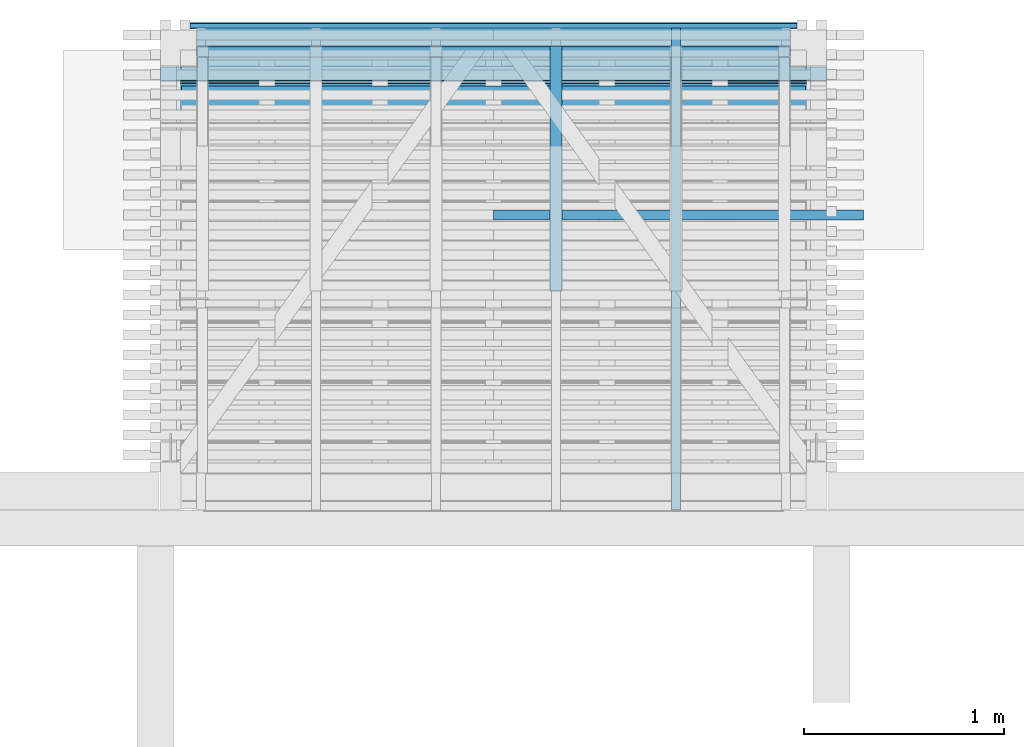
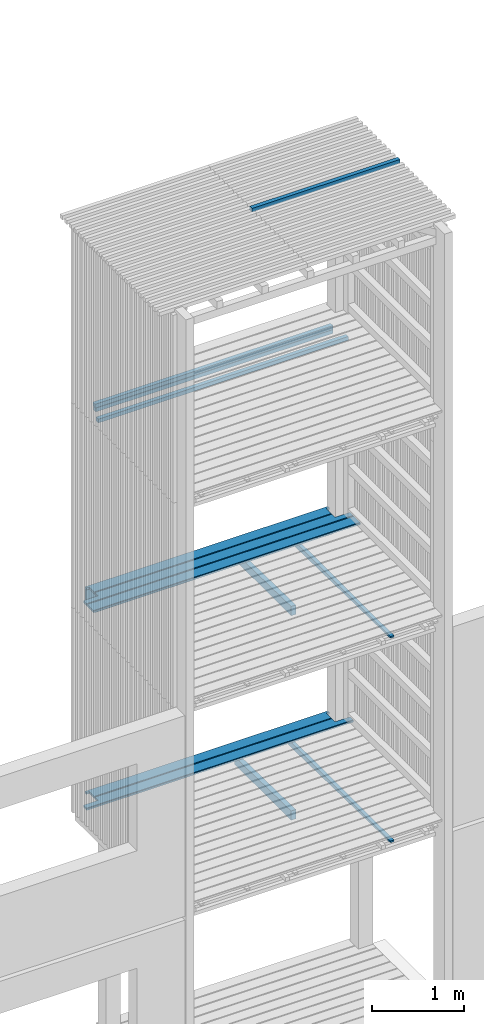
# One storey, part 50 of 182: 15 beams.
"""IFC2X3 building model written with IfcOpenShell, lengths in metres."""

from ifc_helpers import new_model, si_unit, frame, origin, place, context, project, spatial, faceted_brep, element, save


model = new_model("IFC2X3")

# Units and contexts
model_context = context("Model", 3, precision=1e-06, world=origin())
ifc_project = project(units=[si_unit("LENGTHUNIT", "METRE"), si_unit("PLANEANGLEUNIT", "RADIAN")], contexts=[model_context])

# Site, building, storey
site = spatial("IfcSite", under=ifc_project, CompositionType="ELEMENT")
building = spatial("IfcBuilding", under=site, CompositionType="ELEMENT")
storey = spatial("IfcBuildingStorey", under=building, Name="vs", CompositionType="ELEMENT", Elevation=-0.85)

# Beams
placement = place(None, origin())
beam_1_placement = place(placement, frame((16.506015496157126, 12.834577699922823, 2.733499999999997), z_axis=(0.0, 0.0, 1.0), x_axis=(-1.0, 0.0, 0.0)))
element("IfcBeam", 1, at=beam_1_placement, inside=storey, Name="Caillebotis", context=model_context, shape_type="Brep", body=[
    faceted_brep([(3.033636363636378, -0.072499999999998, -0.0135), (3.033636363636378, -0.072499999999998, 0.008500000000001), (2e-15, -0.072499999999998, 0.008500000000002), (2e-15, -0.072500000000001, -0.0135), (2.996818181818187, 0.072500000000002, 0.0085), (2.996818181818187, 0.067500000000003, 0.0135), (2.996818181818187, -0.040499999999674, 0.0135), (2.996818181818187, -0.040499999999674, -0.0135), (2.996818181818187, 0.072500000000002, -0.0135), (0.036818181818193, -0.040499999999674, -0.0135), (0.036818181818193, 0.072499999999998, -0.0135), (2.996818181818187, 0.072500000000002, -0.0135), (2.996818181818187, -0.040499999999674, -0.0135), (3.033636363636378, -0.040499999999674, -0.0135), (3.033636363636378, -0.072499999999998, -0.0135), (2e-15, -0.072500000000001, -0.0135), (2e-15, -0.040499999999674, -0.0135), (3.033636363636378, -0.072499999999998, 0.008500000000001), (3.033636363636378, -0.072499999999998, -0.0135), (3.033636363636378, -0.040499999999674, -0.0135), (3.033636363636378, -0.040499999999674, 0.0135), (3.033636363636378, -0.067500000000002, 0.0135), (3.033636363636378, -0.040499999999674, 0.0135), (3.033636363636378, -0.040499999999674, -0.0135), (2.996818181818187, -0.040499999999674, -0.0135), (2.996818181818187, -0.040499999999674, 0.0135), (2.996818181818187, 0.072500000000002, 0.0085), (2.996818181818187, 0.072500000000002, -0.0135), (0.036818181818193, 0.072499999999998, -0.0135), (0.036818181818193, 0.072499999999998, 0.0085), (2.996818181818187, 0.067500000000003, 0.0135), (2.996818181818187, 0.072500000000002, 0.0085), (0.036818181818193, 0.072499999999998, 0.0085), (0.036818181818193, 0.067500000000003, 0.0135), (0.036818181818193, 0.067500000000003, 0.0135), (0.036818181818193, 0.072499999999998, 0.0085), (0.036818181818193, 0.072499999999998, -0.0135), (0.036818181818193, -0.040499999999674, -0.0135), (0.036818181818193, -0.040499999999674, 0.0135), (0.036818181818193, -0.040499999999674, 0.0135), (0.036818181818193, -0.040499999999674, -0.0135), (2e-15, -0.040499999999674, -0.0135), (2e-15, -0.040499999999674, 0.0135), (3.033636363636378, -0.067500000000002, 0.0135), (3.033636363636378, -0.040499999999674, 0.0135), (2.996818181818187, -0.040499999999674, 0.0135), (2.996818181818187, 0.067500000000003, 0.0135), (0.036818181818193, 0.067500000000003, 0.0135), (0.036818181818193, -0.040499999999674, 0.0135), (2e-15, -0.040499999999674, 0.0135), (2e-15, -0.067500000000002, 0.0135), (2e-15, -0.072499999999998, 0.008500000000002), (3.033636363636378, -0.072499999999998, 0.008500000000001), (3.033636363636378, -0.067500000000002, 0.0135), (2e-15, -0.067500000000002, 0.0135), (2e-15, -0.072500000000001, -0.0135), (2e-15, -0.072499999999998, 0.008500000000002), (2e-15, -0.067500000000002, 0.0135), (2e-15, -0.040499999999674, 0.0135), (2e-15, -0.040499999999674, -0.0135)], [[[0, 1, 2, 3]], [[4, 5, 6, 7, 8]], [[9, 10, 11, 12, 13, 14, 15, 16]], [[17, 18, 19, 20, 21]], [[22, 23, 24, 25]], [[26, 27, 28, 29]], [[30, 31, 32, 33]], [[34, 35, 36, 37, 38]], [[39, 40, 41, 42]], [[43, 44, 45, 46, 47, 48, 49, 50]], [[51, 52, 53, 54]], [[55, 56, 57, 58, 59]]]),
])
beam_2_placement = place(placement, frame((16.469197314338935, 12.760077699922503, 7.86739999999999), z_axis=(0.0, 0.0, 1.0), x_axis=(-1.0, 0.0, 0.0)))
element("IfcBeam", 2, at=beam_2_placement, inside=storey, Name="Bardage", context=model_context, shape_type="Brep", body=[
    faceted_brep([(2.96000000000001, -0.024999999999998, 0.025000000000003), (2.96000000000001, -0.024999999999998, -0.024999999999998), (2.96000000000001, 0.025000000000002, -0.024999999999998), (2.96000000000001, 0.025000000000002, 0.025000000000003), (2e-15, 0.024999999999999, 0.025000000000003), (2e-15, 0.024999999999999, -0.024999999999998), (2e-15, -0.024999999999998, -0.024999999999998), (2e-15, -0.024999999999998, 0.025000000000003), (2e-15, -0.024999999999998, -0.024999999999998), (2e-15, 0.024999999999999, -0.024999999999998), (2.96000000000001, 0.025000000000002, -0.024999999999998), (2.96000000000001, -0.024999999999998, -0.024999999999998), (2e-15, 0.024999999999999, -0.024999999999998), (2e-15, 0.024999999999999, 0.025000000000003), (2.96000000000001, 0.025000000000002, 0.025000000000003), (2.96000000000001, 0.025000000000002, -0.024999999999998), (2e-15, 0.024999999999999, 0.025000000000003), (2e-15, -0.024999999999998, 0.025000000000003), (2.96000000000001, -0.024999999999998, 0.025000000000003), (2.96000000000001, 0.025000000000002, 0.025000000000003), (2e-15, -0.024999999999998, 0.025000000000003), (2e-15, -0.024999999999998, -0.024999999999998), (2.96000000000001, -0.024999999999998, -0.024999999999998), (2.96000000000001, -0.024999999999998, 0.025000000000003)], [[[0, 1, 2, 3]], [[4, 5, 6, 7]], [[8, 9, 10, 11]], [[12, 13, 14, 15]], [[16, 17, 18, 19]], [[20, 21, 22, 23]]]),
])
beam_3_placement = place(placement, frame((16.654197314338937, 12.684577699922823, 5.433499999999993), z_axis=(0.0, 0.0, 1.0), x_axis=(-1.0, 0.0, 0.0)))
element("IfcBeam", 3, at=beam_3_placement, inside=storey, Name="Caillebotis", context=model_context, shape_type="Brep", body=[
    faceted_brep([(3.144999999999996, -0.000499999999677, 0.0135), (3.144999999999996, -0.000499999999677, -0.0135), (3.329999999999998, -0.000499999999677, -0.0135), (3.329999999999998, -0.000499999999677, 0.0135), (3.329999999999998, 0.072500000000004, -0.0135), (3.329999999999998, 0.0725, 0.008500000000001), (3.329999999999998, 0.067500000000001, 0.0135), (3.329999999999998, -0.000499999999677, 0.0135), (3.329999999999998, -0.000499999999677, -0.0135), (3.144999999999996, -0.072499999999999, 0.008500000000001), (3.144999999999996, -0.072499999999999, -0.013500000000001), (3.144999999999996, -0.000499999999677, -0.0135), (3.144999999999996, -0.000499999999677, 0.0135), (3.144999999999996, -0.0675, 0.0135), (3.144999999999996, -0.072499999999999, -0.013500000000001), (3.144999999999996, -0.072499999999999, 0.008500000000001), (0.185000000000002, -0.072499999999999, 0.008500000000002), (0.185000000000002, -0.072499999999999, -0.0135), (3.144999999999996, -0.072499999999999, 0.008500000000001), (3.144999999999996, -0.0675, 0.0135), (0.185000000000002, -0.067500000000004, 0.0135), (0.185000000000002, -0.072499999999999, 0.008500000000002), (0.185000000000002, -0.072499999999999, -0.0135), (0.185000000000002, -0.072499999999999, 0.008500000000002), (0.185000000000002, -0.067500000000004, 0.0135), (0.185000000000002, -0.000499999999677, 0.0135), (0.185000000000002, -0.000499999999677, -0.0135), (1.4e-14, -0.000499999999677, 0.0135), (0.0, 0.067500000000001, 0.0135), (0.0, 0.0725, 0.008500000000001), (0.0, 0.0725, -0.0135), (0.0, -0.000499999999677, -0.0135), (3.329999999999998, 0.0725, 0.008500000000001), (3.329999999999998, 0.072500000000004, -0.0135), (0.0, 0.0725, -0.0135), (0.0, 0.0725, 0.008500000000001), (3.329999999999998, 0.067500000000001, 0.0135), (3.329999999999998, 0.0725, 0.008500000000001), (0.0, 0.0725, 0.008500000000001), (0.0, 0.067500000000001, 0.0135), (3.144999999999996, -0.0675, 0.0135), (3.144999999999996, -0.000499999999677, 0.0135), (3.329999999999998, -0.000499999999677, 0.0135), (3.329999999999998, 0.067500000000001, 0.0135), (0.0, 0.067500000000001, 0.0135), (1.4e-14, -0.000499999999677, 0.0135), (0.185000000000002, -0.000499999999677, 0.0135), (0.185000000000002, -0.067500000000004, 0.0135), (0.185000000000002, -0.000499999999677, -0.0135), (0.185000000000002, -0.000499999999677, 0.0135), (1.4e-14, -0.000499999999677, 0.0135), (0.0, -0.000499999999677, -0.0135), (0.0, -0.000499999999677, -0.0135), (0.0, 0.0725, -0.0135), (3.329999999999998, 0.072500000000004, -0.0135), (3.329999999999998, -0.000499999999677, -0.0135), (3.144999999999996, -0.000499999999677, -0.0135), (3.144999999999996, -0.072499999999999, -0.013500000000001), (0.185000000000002, -0.072499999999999, -0.0135), (0.185000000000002, -0.000499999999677, -0.0135)], [[[0, 1, 2, 3]], [[4, 5, 6, 7, 8]], [[9, 10, 11, 12, 13]], [[14, 15, 16, 17]], [[18, 19, 20, 21]], [[22, 23, 24, 25, 26]], [[27, 28, 29, 30, 31]], [[32, 33, 34, 35]], [[36, 37, 38, 39]], [[40, 41, 42, 43, 44, 45, 46, 47]], [[48, 49, 50, 51]], [[52, 53, 54, 55, 56, 57, 58, 59]]]),
])
beam_4_placement = place(placement, frame((16.654197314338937, 12.534577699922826, 5.433499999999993), z_axis=(0.0, 0.0, 1.0), x_axis=(-1.0, -1e-15, 0.0)))
element("IfcBeam", 4, at=beam_4_placement, inside=storey, Name="Caillebotis", context=model_context, shape_type="Brep", body=[
    faceted_brep([(3.329999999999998, -0.072500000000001, -0.0135), (3.329999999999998, 0.072500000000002, -0.0135), (3.329999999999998, 0.072500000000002, 0.008500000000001), (3.329999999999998, 0.067499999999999, 0.0135), (3.329999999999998, -0.067499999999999, 0.0135), (3.329999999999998, -0.072500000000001, 0.008500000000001), (0.0, -0.072499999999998, 0.008500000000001), (0.0, -0.067499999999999, 0.0135), (0.0, 0.067500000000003, 0.0135), (0.0, 0.072500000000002, 0.008500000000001), (0.0, 0.072500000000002, -0.0135), (0.0, -0.072499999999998, -0.0135), (3.329999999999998, 0.072500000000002, 0.008500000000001), (3.329999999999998, 0.072500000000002, -0.0135), (0.0, 0.072500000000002, -0.0135), (0.0, 0.072500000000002, 0.008500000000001), (3.329999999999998, 0.067499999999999, 0.0135), (3.329999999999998, 0.072500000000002, 0.008500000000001), (0.0, 0.072500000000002, 0.008500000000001), (0.0, 0.067500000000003, 0.0135), (3.329999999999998, -0.067499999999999, 0.0135), (3.329999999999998, 0.067499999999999, 0.0135), (0.0, 0.067500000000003, 0.0135), (0.0, -0.067499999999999, 0.0135), (3.329999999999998, -0.072500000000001, 0.008500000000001), (3.329999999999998, -0.067499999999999, 0.0135), (0.0, -0.067499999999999, 0.0135), (0.0, -0.072499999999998, 0.008500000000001), (3.329999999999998, -0.072500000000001, -0.0135), (3.329999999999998, -0.072500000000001, 0.008500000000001), (0.0, -0.072499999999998, 0.008500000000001), (0.0, -0.072499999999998, -0.0135), (0.0, 0.072500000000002, -0.0135), (3.329999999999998, 0.072500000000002, -0.0135), (3.329999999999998, -0.072500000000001, -0.0135), (0.0, -0.072499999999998, -0.0135)], [[[0, 1, 2, 3, 4, 5]], [[6, 7, 8, 9, 10, 11]], [[12, 13, 14, 15]], [[16, 17, 18, 19]], [[20, 21, 22, 23]], [[24, 25, 26, 27]], [[28, 29, 30, 31]], [[32, 33, 34, 35]]]),
])
beam_5_placement = place(placement, frame((13.472379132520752, 12.89357769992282, 5.342499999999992), z_axis=(0.0, 1.0, 0.0), x_axis=(1.0, 0.0, 0.0)))
element("IfcBeam", 5, at=beam_5_placement, inside=storey, Name="Caillebotis", context=model_context, shape_type="Brep", body=[
    faceted_brep([(-3e-15, -0.072500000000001, -0.013500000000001), (-3e-15, 0.072499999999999, -0.013500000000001), (3.033636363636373, 0.072499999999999, -0.013499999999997), (3.033636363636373, -0.072500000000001, -0.013499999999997), (-3e-15, -0.072500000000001, 0.008500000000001), (-3e-15, -0.072500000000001, -0.013500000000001), (3.033636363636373, -0.072500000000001, -0.013499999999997), (3.033636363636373, -0.072500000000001, 0.008500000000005), (-3e-15, -0.067500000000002, 0.0135), (-3e-15, -0.072500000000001, 0.008500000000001), (3.033636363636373, -0.072500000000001, 0.008500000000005), (3.033636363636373, -0.067500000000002, 0.013500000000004), (-3e-15, -0.072500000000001, -0.013500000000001), (-3e-15, -0.072500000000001, 0.008500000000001), (-3e-15, -0.067500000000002, 0.0135), (-3e-15, 0.0675, 0.0135), (-3e-15, 0.072499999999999, 0.008500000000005), (-3e-15, 0.072499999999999, -0.013500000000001), (-3e-15, 0.0675, 0.0135), (-3e-15, -0.067500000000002, 0.0135), (3.033636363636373, -0.067500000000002, 0.013500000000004), (3.033636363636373, 0.0675, 0.013500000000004), (-3e-15, 0.072499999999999, 0.008500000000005), (-3e-15, 0.0675, 0.0135), (3.033636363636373, 0.0675, 0.013500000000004), (3.033636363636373, 0.072499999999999, 0.008500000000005), (3.033636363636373, 0.072499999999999, -0.013499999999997), (-3e-15, 0.072499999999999, -0.013500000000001), (-3e-15, 0.072499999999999, 0.008500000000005), (3.033636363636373, 0.072499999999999, 0.008500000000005), (3.033636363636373, -0.072500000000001, 0.008500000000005), (3.033636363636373, -0.072500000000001, -0.013499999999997), (3.033636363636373, 0.072499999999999, -0.013499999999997), (3.033636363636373, 0.072499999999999, 0.008500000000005), (3.033636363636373, 0.0675, 0.013500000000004), (3.033636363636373, -0.067500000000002, 0.013500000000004)], [[[0, 1, 2, 3]], [[4, 5, 6, 7]], [[8, 9, 10, 11]], [[12, 13, 14, 15, 16, 17]], [[18, 19, 20, 21]], [[22, 23, 24, 25]], [[26, 27, 28, 29]], [[30, 31, 32, 33, 34, 35]]]),
])
beam_6_placement = place(placement, frame((13.504197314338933, 12.765077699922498, 5.217399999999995), z_axis=(0.0, 0.0, 1.0), x_axis=(1.0, 1e-15, 0.0)))
element("IfcBeam", 6, at=beam_6_placement, inside=storey, Name="Ligneul", context=model_context, shape_type="Brep", body=[
    faceted_brep([(2e-15, -0.024999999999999, -0.024999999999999), (2.970000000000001, -0.025000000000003, -0.024999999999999), (2.970000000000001, -0.025000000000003, 0.025), (2e-15, -0.024999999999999, 0.025), (2e-15, -0.024999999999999, 0.025), (2.970000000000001, -0.025000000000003, 0.025), (2.970000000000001, 0.024999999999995, 0.025), (2e-15, 0.025000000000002, 0.025), (2e-15, 0.025000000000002, -0.024999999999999), (2e-15, -0.024999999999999, -0.024999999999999), (2e-15, -0.024999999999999, 0.025), (2e-15, 0.025000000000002, 0.025), (2e-15, 0.025000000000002, -0.024999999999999), (2e-15, 0.025000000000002, 0.025), (2.970000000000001, 0.024999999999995, 0.025), (2.970000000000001, 0.025000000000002, -0.024999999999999), (2e-15, -0.024999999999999, -0.024999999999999), (2e-15, 0.025000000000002, -0.024999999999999), (2.970000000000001, 0.025000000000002, -0.024999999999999), (2.970000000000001, -0.025000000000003, -0.024999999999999), (2.970000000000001, 0.025000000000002, -0.024999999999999), (2.970000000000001, 0.024999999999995, 0.025), (2.970000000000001, -0.025000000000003, 0.025), (2.970000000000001, -0.025000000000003, -0.024999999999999)], [[[0, 1, 2, 3]], [[4, 5, 6, 7]], [[8, 9, 10, 11]], [[12, 13, 14, 15]], [[16, 17, 18, 19]], [[20, 21, 22, 23]]]),
])
beam_7_placement = place(placement, frame((16.549197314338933, 12.565911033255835, 7.86739999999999), z_axis=(0.0, 0.0, 1.0), x_axis=(-1.0, 0.0, 0.0)))
element("IfcBeam", 7, at=beam_7_placement, inside=storey, Name="Bardage", context=model_context, shape_type="Brep", body=[
    faceted_brep([(3.120000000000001, 0.025000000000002, -0.024999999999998), (3.120000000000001, 0.025000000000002, 0.025000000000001), (3.120000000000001, -0.024999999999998, 0.025000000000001), (3.120000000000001, -0.024999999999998, -0.024999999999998), (-3e-15, -0.024999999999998, -0.024999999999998), (-3e-15, -0.024999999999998, 0.025000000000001), (-3e-15, 0.025000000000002, 0.025000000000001), (-3e-15, 0.025000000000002, -0.024999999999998), (-3e-15, 0.025000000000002, -0.024999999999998), (-3e-15, 0.025000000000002, 0.025000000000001), (3.120000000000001, 0.025000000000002, 0.025000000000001), (3.120000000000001, 0.025000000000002, -0.024999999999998), (-3e-15, 0.025000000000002, 0.025000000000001), (-3e-15, -0.024999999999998, 0.025000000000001), (3.120000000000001, -0.024999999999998, 0.025000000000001), (3.120000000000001, 0.025000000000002, 0.025000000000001), (-3e-15, -0.024999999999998, 0.025000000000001), (-3e-15, -0.024999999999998, -0.024999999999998), (3.120000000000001, -0.024999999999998, -0.024999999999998), (3.120000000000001, -0.024999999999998, 0.025000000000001), (-3e-15, -0.024999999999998, -0.024999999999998), (-3e-15, 0.025000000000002, -0.024999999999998), (3.120000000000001, 0.025000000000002, -0.024999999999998), (3.120000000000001, -0.024999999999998, -0.024999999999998)], [[[0, 1, 2, 3]], [[4, 5, 6, 7]], [[8, 9, 10, 11]], [[12, 13, 14, 15]], [[16, 17, 18, 19]], [[20, 21, 22, 23]]]),
])
beam_8_placement = place(placement, frame((16.506015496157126, 12.834577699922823, 5.433499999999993), z_axis=(0.0, 0.0, 1.0), x_axis=(-1.0, 0.0, 0.0)))
element("IfcBeam", 8, at=beam_8_placement, inside=storey, Name="Caillebotis", context=model_context, shape_type="Brep", body=[
    faceted_brep([(3.033636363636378, -0.072499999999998, -0.0135), (3.033636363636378, -0.072499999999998, 0.008500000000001), (2e-15, -0.072499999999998, 0.008500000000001), (2e-15, -0.072500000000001, -0.0135), (2.996818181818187, 0.072500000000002, 0.0085), (2.996818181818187, 0.067500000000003, 0.0135), (2.996818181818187, -0.040499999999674, 0.0135), (2.996818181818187, -0.040499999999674, -0.0135), (2.996818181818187, 0.072500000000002, -0.013500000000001), (0.036818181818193, -0.040499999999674, -0.0135), (0.036818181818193, 0.072499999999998, -0.0135), (2.996818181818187, 0.072500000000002, -0.013500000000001), (2.996818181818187, -0.040499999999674, -0.0135), (3.033636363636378, -0.040499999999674, -0.013500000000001), (3.033636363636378, -0.072499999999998, -0.0135), (2e-15, -0.072500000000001, -0.0135), (2e-15, -0.040499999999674, -0.0135), (3.033636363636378, -0.072499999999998, 0.008500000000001), (3.033636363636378, -0.072499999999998, -0.0135), (3.033636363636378, -0.040499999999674, -0.013500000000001), (3.033636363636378, -0.040499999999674, 0.0135), (3.033636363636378, -0.067500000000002, 0.0135), (3.033636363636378, -0.040499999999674, 0.0135), (3.033636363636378, -0.040499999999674, -0.013500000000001), (2.996818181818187, -0.040499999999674, -0.0135), (2.996818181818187, -0.040499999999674, 0.0135), (2.996818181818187, 0.072500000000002, 0.0085), (2.996818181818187, 0.072500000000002, -0.013500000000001), (0.036818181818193, 0.072499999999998, -0.0135), (0.036818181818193, 0.072499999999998, 0.008500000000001), (2.996818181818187, 0.067500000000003, 0.0135), (2.996818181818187, 0.072500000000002, 0.0085), (0.036818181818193, 0.072499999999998, 0.008500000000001), (0.036818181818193, 0.067500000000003, 0.0135), (0.036818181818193, 0.067500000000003, 0.0135), (0.036818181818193, 0.072499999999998, 0.008500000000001), (0.036818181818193, 0.072499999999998, -0.0135), (0.036818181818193, -0.040499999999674, -0.0135), (0.036818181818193, -0.040499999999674, 0.0135), (0.036818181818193, -0.040499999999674, 0.0135), (0.036818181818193, -0.040499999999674, -0.0135), (2e-15, -0.040499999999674, -0.0135), (2e-15, -0.040499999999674, 0.0135), (3.033636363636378, -0.067500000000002, 0.0135), (3.033636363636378, -0.040499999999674, 0.0135), (2.996818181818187, -0.040499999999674, 0.0135), (2.996818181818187, 0.067500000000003, 0.0135), (0.036818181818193, 0.067500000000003, 0.0135), (0.036818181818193, -0.040499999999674, 0.0135), (2e-15, -0.040499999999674, 0.0135), (2e-15, -0.067500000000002, 0.0135), (2e-15, -0.072499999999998, 0.008500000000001), (3.033636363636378, -0.072499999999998, 0.008500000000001), (3.033636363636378, -0.067500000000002, 0.0135), (2e-15, -0.067500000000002, 0.0135), (2e-15, -0.072500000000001, -0.0135), (2e-15, -0.072499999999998, 0.008500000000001), (2e-15, -0.067500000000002, 0.0135), (2e-15, -0.040499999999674, 0.0135), (2e-15, -0.040499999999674, -0.0135)], [[[0, 1, 2, 3]], [[4, 5, 6, 7, 8]], [[9, 10, 11, 12, 13, 14, 15, 16]], [[17, 18, 19, 20, 21]], [[22, 23, 24, 25]], [[26, 27, 28, 29]], [[30, 31, 32, 33]], [[34, 35, 36, 37, 38]], [[39, 40, 41, 42]], [[43, 44, 45, 46, 47, 48, 49, 50]], [[51, 52, 53, 54]], [[55, 56, 57, 58, 59]]]),
])
beam_9_placement = place(placement, frame((16.654197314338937, 12.684577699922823, 2.733499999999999), z_axis=(0.0, 0.0, 1.0), x_axis=(-1.0, 0.0, 0.0)))
element("IfcBeam", 9, at=beam_9_placement, inside=storey, Name="Caillebotis", context=model_context, shape_type="Brep", body=[
    faceted_brep([(3.144999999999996, -0.000499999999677, 0.0135), (3.144999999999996, -0.000499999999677, -0.0135), (3.329999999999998, -0.000499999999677, -0.0135), (3.329999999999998, -0.000499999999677, 0.0135), (3.329999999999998, 0.072500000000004, -0.0135), (3.329999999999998, 0.0725, 0.0085), (3.329999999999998, 0.067500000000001, 0.0135), (3.329999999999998, -0.000499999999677, 0.0135), (3.329999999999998, -0.000499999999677, -0.0135), (3.144999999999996, -0.072499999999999, 0.008500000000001), (3.144999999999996, -0.072499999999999, -0.013500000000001), (3.144999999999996, -0.000499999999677, -0.0135), (3.144999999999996, -0.000499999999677, 0.0135), (3.144999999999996, -0.0675, 0.0135), (3.144999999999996, -0.072499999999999, -0.013500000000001), (3.144999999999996, -0.072499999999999, 0.008500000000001), (0.185000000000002, -0.072499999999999, 0.008500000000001), (0.185000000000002, -0.072499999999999, -0.0135), (3.144999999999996, -0.072499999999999, 0.008500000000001), (3.144999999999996, -0.0675, 0.0135), (0.185000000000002, -0.067500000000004, 0.0135), (0.185000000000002, -0.072499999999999, 0.008500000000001), (0.185000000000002, -0.072499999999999, -0.0135), (0.185000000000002, -0.072499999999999, 0.008500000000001), (0.185000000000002, -0.067500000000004, 0.0135), (0.185000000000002, -0.000499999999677, 0.0135), (0.185000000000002, -0.000499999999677, -0.0135), (1.4e-14, -0.000499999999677, 0.0135), (0.0, 0.067500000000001, 0.0135), (0.0, 0.0725, 0.008500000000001), (0.0, 0.0725, -0.0135), (0.0, -0.000499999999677, -0.0135), (3.329999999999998, 0.0725, 0.0085), (3.329999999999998, 0.072500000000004, -0.0135), (0.0, 0.0725, -0.0135), (0.0, 0.0725, 0.008500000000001), (3.329999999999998, 0.067500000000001, 0.0135), (3.329999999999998, 0.0725, 0.0085), (0.0, 0.0725, 0.008500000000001), (0.0, 0.067500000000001, 0.0135), (3.144999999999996, -0.0675, 0.0135), (3.144999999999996, -0.000499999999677, 0.0135), (3.329999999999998, -0.000499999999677, 0.0135), (3.329999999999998, 0.067500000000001, 0.0135), (0.0, 0.067500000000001, 0.0135), (1.4e-14, -0.000499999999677, 0.0135), (0.185000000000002, -0.000499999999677, 0.0135), (0.185000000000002, -0.067500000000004, 0.0135), (0.185000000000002, -0.000499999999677, -0.0135), (0.185000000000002, -0.000499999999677, 0.0135), (1.4e-14, -0.000499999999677, 0.0135), (0.0, -0.000499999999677, -0.0135), (0.0, -0.000499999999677, -0.0135), (0.0, 0.0725, -0.0135), (3.329999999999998, 0.072500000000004, -0.0135), (3.329999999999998, -0.000499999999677, -0.0135), (3.144999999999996, -0.000499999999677, -0.0135), (3.144999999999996, -0.072499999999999, -0.013500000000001), (0.185000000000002, -0.072499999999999, -0.0135), (0.185000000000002, -0.000499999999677, -0.0135)], [[[0, 1, 2, 3]], [[4, 5, 6, 7, 8]], [[9, 10, 11, 12, 13]], [[14, 15, 16, 17]], [[18, 19, 20, 21]], [[22, 23, 24, 25, 26]], [[27, 28, 29, 30, 31]], [[32, 33, 34, 35]], [[36, 37, 38, 39]], [[40, 41, 42, 43, 44, 45, 46, 47]], [[48, 49, 50, 51]], [[52, 53, 54, 55, 56, 57, 58, 59]]]),
])
beam_10_placement = place(placement, frame((13.504197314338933, 12.765077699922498, 7.917399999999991), z_axis=(0.0, 0.0, 1.0), x_axis=(1.0, 1e-15, 0.0)))
element("IfcBeam", 10, at=beam_10_placement, inside=storey, Name="Ligneul", context=model_context, shape_type="Brep", body=[
    faceted_brep([(2e-15, 0.025000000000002, -0.025000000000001), (2.970000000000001, 0.025000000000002, -0.025000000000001), (2.970000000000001, -0.025000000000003, -0.025000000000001), (2e-15, -0.024999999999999, -0.025000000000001), (2e-15, -0.024999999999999, 0.024999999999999), (2e-15, 0.025000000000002, 0.024999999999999), (2e-15, 0.025000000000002, -0.025000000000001), (2e-15, -0.024999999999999, -0.025000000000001), (2e-15, -0.024999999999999, 0.024999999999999), (2e-15, -0.024999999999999, -0.025000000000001), (2.970000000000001, -0.025000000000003, -0.025000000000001), (2.970000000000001, -0.025000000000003, 0.024999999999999), (2.970000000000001, -0.025000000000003, 0.024999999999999), (2.970000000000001, -0.025000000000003, -0.025000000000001), (2.970000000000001, 0.025000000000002, -0.025000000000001), (2.970000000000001, 0.025000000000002, 0.024999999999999), (2e-15, 0.025000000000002, 0.024999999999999), (2e-15, -0.024999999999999, 0.024999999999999), (2.970000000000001, -0.025000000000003, 0.024999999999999), (2.970000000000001, 0.025000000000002, 0.024999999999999), (2.970000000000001, 0.025000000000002, -0.025000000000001), (2e-15, 0.025000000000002, -0.025000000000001), (2e-15, 0.025000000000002, 0.024999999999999), (2.970000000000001, 0.025000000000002, 0.024999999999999)], [[[0, 1, 2, 3]], [[4, 5, 6, 7]], [[8, 9, 10, 11]], [[12, 13, 14, 15]], [[16, 17, 18, 19]], [[20, 21, 22, 23]]]),
])
beam_11_placement = place(placement, frame((16.839197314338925, 11.945077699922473, 10.47999999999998), z_axis=(0.0, 0.0, 1.0), x_axis=(-1.0, 0.0, 0.0)))
element("IfcBeam", 11, at=beam_11_placement, inside=storey, Name="Bardage", context=model_context, shape_type="Brep", body=[
    faceted_brep([(-3e-15, 0.024999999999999, 0.025000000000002), (-3e-15, -0.025000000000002, 0.025000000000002), (1.849999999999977, -0.025000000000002, 0.025000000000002), (1.849999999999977, 0.024999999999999, 0.025000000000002), (1.849999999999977, -0.025000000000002, 0.025000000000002), (-3e-15, -0.025000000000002, 0.025000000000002), (-3e-15, -0.025000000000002, -0.024999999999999), (1.849999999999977, -0.025000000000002, -0.024999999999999), (-3e-15, -0.025000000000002, 0.025000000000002), (-3e-15, 0.024999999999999, 0.025000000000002), (-3e-15, 0.024999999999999, -0.024999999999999), (-3e-15, -0.025000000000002, -0.024999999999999), (-3e-15, 0.024999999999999, -0.024999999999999), (-3e-15, 0.024999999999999, 0.025000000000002), (1.849999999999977, 0.024999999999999, 0.025000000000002), (1.849999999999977, 0.024999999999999, -0.024999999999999), (1.849999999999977, -0.025000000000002, -0.024999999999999), (-3e-15, -0.025000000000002, -0.024999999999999), (-3e-15, 0.024999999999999, -0.024999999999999), (1.849999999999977, 0.024999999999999, -0.024999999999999), (1.849999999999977, -0.025000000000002, 0.025000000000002), (1.849999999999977, -0.025000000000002, -0.024999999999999), (1.849999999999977, 0.024999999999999, -0.024999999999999), (1.849999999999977, 0.024999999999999, 0.025000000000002)], [[[0, 1, 2, 3]], [[4, 5, 6, 7]], [[8, 9, 10, 11]], [[12, 13, 14, 15]], [[16, 17, 18, 19]], [[20, 21, 22, 23]]]),
])
beam_12_placement = place(placement, frame((15.302197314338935, 11.565077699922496, 5.304249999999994), z_axis=(0.0, 0.0, 1.0), x_axis=(0.0, 1.0, 0.0)))
element("IfcBeam", 12, at=beam_12_placement, inside=storey, Name="Solive", context=model_context, shape_type="Brep", body=[
    faceted_brep([(0.0, -0.030000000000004, -0.061849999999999), (1.225000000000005, -0.030000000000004, -0.061849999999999), (1.225000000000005, -0.030000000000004, 0.03735), (0.0, -0.030000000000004, 0.06185), (0.0, 0.029999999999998, 0.061850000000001), (0.0, 0.029999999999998, -0.061849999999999), (0.0, -0.030000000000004, -0.061849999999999), (0.0, -0.030000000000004, 0.06185), (0.0, -0.030000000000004, -0.061849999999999), (0.0, 0.029999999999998, -0.061849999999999), (1.225000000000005, 0.029999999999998, -0.061849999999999), (1.225000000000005, -0.030000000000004, -0.061849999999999), (1.225000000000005, 0.029999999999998, -0.061849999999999), (0.0, 0.029999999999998, -0.061849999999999), (0.0, 0.029999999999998, 0.061850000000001), (1.225000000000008, 0.029999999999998, 0.03735), (1.225000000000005, -0.030000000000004, 0.03735), (1.225000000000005, -0.030000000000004, -0.061849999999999), (1.225000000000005, 0.029999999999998, -0.061849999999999), (1.225000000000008, 0.029999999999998, 0.03735), (0.0, -0.030000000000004, 0.06185), (1.225000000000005, -0.030000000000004, 0.03735), (1.225000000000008, 0.029999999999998, 0.03735), (0.0, 0.029999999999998, 0.061850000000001)], [[[0, 1, 2, 3]], [[4, 5, 6, 7]], [[8, 9, 10, 11]], [[12, 13, 14, 15]], [[16, 17, 18, 19]], [[20, 21, 22, 23]]]),
])
beam_13_placement = place(placement, frame((15.90219731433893, 10.4700776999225, 5.384400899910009), z_axis=(0.0, 0.0, 1.0), x_axis=(0.0, 1.0, 0.0)))
element("IfcBeam", 13, at=beam_13_placement, inside=storey, Name="Calage", context=model_context, shape_type="Brep", body=[
    faceted_brep([(2.410000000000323, -0.022500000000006, -0.035599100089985), (0.0, -0.022500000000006, 0.012600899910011), (0.0, 0.022499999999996, 0.012600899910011), (2.410000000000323, 0.022499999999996, -0.035599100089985), (0.0, 0.022499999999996, 0.035599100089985), (0.0, 0.022499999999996, 0.012600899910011), (0.0, -0.022500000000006, 0.012600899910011), (0.0, -0.022500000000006, 0.035599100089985), (2.410000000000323, 0.022499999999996, -0.035599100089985), (0.0, 0.022499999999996, 0.012600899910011), (0.0, 0.022499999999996, 0.035599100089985), (2.410000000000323, 0.022499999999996, 0.035599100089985), (2.410000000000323, -0.022500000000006, 0.035599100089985), (0.0, -0.022500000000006, 0.035599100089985), (0.0, -0.022500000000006, 0.012600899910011), (2.410000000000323, -0.022500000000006, -0.035599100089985), (2.410000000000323, 0.022499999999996, 0.035599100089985), (0.0, 0.022499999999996, 0.035599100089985), (0.0, -0.022500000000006, 0.035599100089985), (2.410000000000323, -0.022500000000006, 0.035599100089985), (2.410000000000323, 0.022499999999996, -0.035599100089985), (2.410000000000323, 0.022499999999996, 0.035599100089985), (2.410000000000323, -0.022500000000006, 0.035599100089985), (2.410000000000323, -0.022500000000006, -0.035599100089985)], [[[0, 1, 2, 3]], [[4, 5, 6, 7]], [[8, 9, 10, 11]], [[12, 13, 14, 15]], [[16, 17, 18, 19]], [[20, 21, 22, 23]]]),
])
beam_14_placement = place(placement, frame((15.90219731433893, 10.4700776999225, 2.684400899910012), z_axis=(0.0, 0.0, 1.0), x_axis=(0.0, 1.0, 0.0)))
element("IfcBeam", 14, at=beam_14_placement, inside=storey, Name="Calage", context=model_context, shape_type="Brep", body=[
    faceted_brep([(2.410000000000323, -0.022500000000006, -0.035599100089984), (0.0, -0.022500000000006, 0.012600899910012), (0.0, 0.022499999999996, 0.012600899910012), (2.410000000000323, 0.022499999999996, -0.035599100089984), (0.0, 0.022499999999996, 0.035599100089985), (0.0, 0.022499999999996, 0.012600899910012), (0.0, -0.022500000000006, 0.012600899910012), (0.0, -0.022500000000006, 0.035599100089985), (2.410000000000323, 0.022499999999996, -0.035599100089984), (0.0, 0.022499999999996, 0.012600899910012), (0.0, 0.022499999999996, 0.035599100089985), (2.410000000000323, 0.022499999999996, 0.035599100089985), (2.410000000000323, -0.022500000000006, 0.035599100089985), (0.0, -0.022500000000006, 0.035599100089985), (0.0, -0.022500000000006, 0.012600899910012), (2.410000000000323, -0.022500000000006, -0.035599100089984), (2.410000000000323, 0.022499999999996, 0.035599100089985), (0.0, 0.022499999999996, 0.035599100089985), (0.0, -0.022500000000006, 0.035599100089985), (2.410000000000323, -0.022500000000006, 0.035599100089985), (2.410000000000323, 0.022499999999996, -0.035599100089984), (2.410000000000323, 0.022499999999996, 0.035599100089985), (2.410000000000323, -0.022500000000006, 0.035599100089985), (2.410000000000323, -0.022500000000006, -0.035599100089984)], [[[0, 1, 2, 3]], [[4, 5, 6, 7]], [[8, 9, 10, 11]], [[12, 13, 14, 15]], [[16, 17, 18, 19]], [[20, 21, 22, 23]]]),
])
beam_15_placement = place(placement, frame((15.302197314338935, 11.565077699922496, 2.604249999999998), z_axis=(0.0, 0.0, 1.0), x_axis=(0.0, 1.0, 0.0)))
element("IfcBeam", 15, at=beam_15_placement, inside=storey, Name="Solive", context=model_context, shape_type="Brep", body=[
    faceted_brep([(0.0, -0.030000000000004, -0.06185), (1.225000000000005, -0.030000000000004, -0.06185), (1.225000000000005, -0.030000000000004, 0.037349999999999), (0.0, -0.030000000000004, 0.06185), (0.0, 0.029999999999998, 0.06185), (0.0, 0.029999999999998, -0.06185), (0.0, -0.030000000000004, -0.06185), (0.0, -0.030000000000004, 0.06185), (0.0, -0.030000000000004, -0.06185), (0.0, 0.029999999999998, -0.06185), (1.225000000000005, 0.029999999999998, -0.06185), (1.225000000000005, -0.030000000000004, -0.06185), (1.225000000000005, 0.029999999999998, -0.06185), (0.0, 0.029999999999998, -0.06185), (0.0, 0.029999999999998, 0.06185), (1.225000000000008, 0.029999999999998, 0.037349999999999), (1.225000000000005, -0.030000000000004, 0.037349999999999), (1.225000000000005, -0.030000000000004, -0.06185), (1.225000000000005, 0.029999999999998, -0.06185), (1.225000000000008, 0.029999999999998, 0.037349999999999), (0.0, -0.030000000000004, 0.06185), (1.225000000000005, -0.030000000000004, 0.037349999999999), (1.225000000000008, 0.029999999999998, 0.037349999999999), (0.0, 0.029999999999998, 0.06185)], [[[0, 1, 2, 3]], [[4, 5, 6, 7]], [[8, 9, 10, 11]], [[12, 13, 14, 15]], [[16, 17, 18, 19]], [[20, 21, 22, 23]]]),
])

save(model, "model.ifc")
